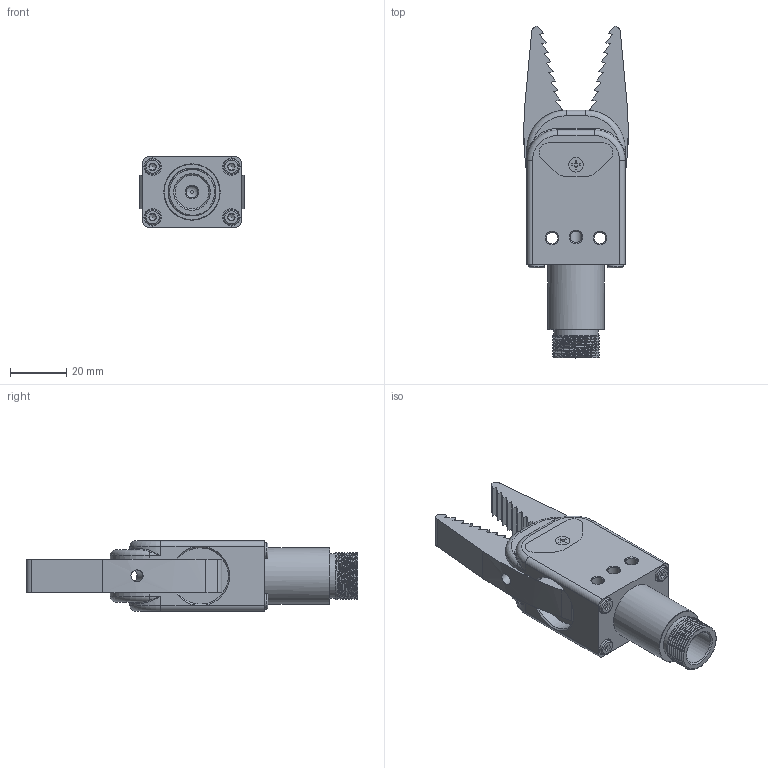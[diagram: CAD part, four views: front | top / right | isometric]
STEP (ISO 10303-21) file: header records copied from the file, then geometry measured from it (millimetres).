
FILE_DESCRIPTION(/* description */ (''),/* implementation_level */ '2;1');
FILE_NAME(/* name */ '_model1.stp',/* time_stamp */ '2023-03-08T14:19:25+08:00',/* author */ (''),/* organization */ (''),/* preprocessor_version */ 'ST-DEVELOPER v16',/* originating_system */ 'SIEMENS PLM Software NX 10.0',/* authorisation */ '');
FILE_SCHEMA (('AUTOMOTIVE_DESIGN { 1 0 10303 214 3 1 1 1 }'));
Length unit declared in the file: millimetre
Products named in the file (1): Admi115498B06j4e
Bounding box: 37.2 x 118.05 x 25 mm (x, y, z)
Volume: 50300.8 mm3; surface area: 21306.9 mm2
Topology: 2 solids, 13 shells, 496 faces, 1185 edges, 737 vertices
Faces by surface type: plane 222, cylinder 139, cone 94, bspline 25, torus 16
Full cylindrical faces by diameter (mm): 2.5 x4, 3 x30, 3.2 x1, 3.4 x4, 3.541 x4, 4 x5, 4.038 x2, 4.2 x8, 5 x4, 5.2 x1, 5.5 x4, 6 x4, 7.8 x2, 12 x1, 15.8 x1, 20 x1
Entity records: 20967 total; most frequent: CARTESIAN_POINT 7087, DIRECTION 2188, ORIENTED_EDGE 1890, EDGE_CURVE 945, AXIS2_PLACEMENT_3D 863, EDGE_LOOP 727, VERTEX_POINT 684, ADVANCED_FACE 493
